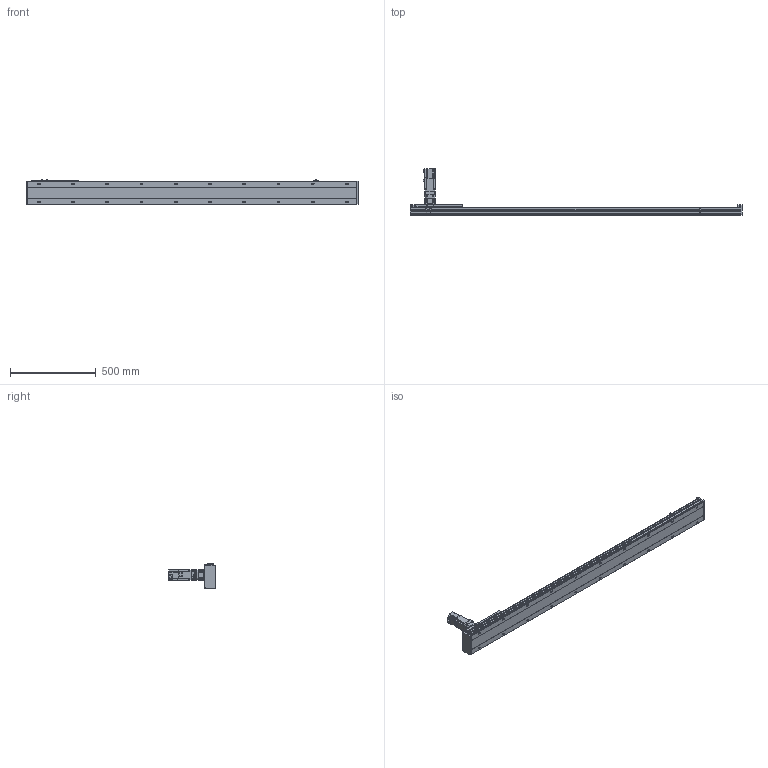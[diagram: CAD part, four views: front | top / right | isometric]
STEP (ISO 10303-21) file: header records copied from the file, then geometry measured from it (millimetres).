
FILE_DESCRIPTION(/* description */ ('STEP AP203'),/* implementation_level */ '2;1');
FILE_NAME(/* name */ 'SHS14A-L10-S1600-BC-T40-C1-N(0)',/* time_stamp */ '2023-03-27T08:49:12+02:00',/* author */ ('License CC BY-ND 4.0'),/* organization */ ('CADENAS'),/* preprocessor_version */ 'ST-DEVELOPER v19.3',/* originating_system */ 'PARTsolutions',/* authorisation */ ' ');
FILE_SCHEMA (('CONFIG_CONTROL_DESIGN'));
Length unit declared in the file: millimetre
Products named in the file (7): SHS14A-L10-S1600-BC-T40-C1-N(0); PSC140-sensor; T40-p1; SHS14AT_body3; SHS14A-1600_slider; SHS14A_body2; SHS14A-S1600-BC-T40-C1(0)_body
Assembly tree (13 placements, depth 2):
  SHS14A-L10-S1600-BC-T40-C1-N(0)
    PSC140-sensor  x3
    T40-p1
    SHS14AT_body3
    SHS14A-1600_slider
    SHS14A_body2  x6
    SHS14A-S1600-BC-T40-C1(0)_body
Bounding box: 1940 x 272.7 x 150.9 mm (x, y, z)
Volume: 8514651.1 mm3; surface area: 1342403.3 mm2
Topology: 13 solids, 13 shells, 2060 faces, 5263 edges, 3442 vertices
Faces by surface type: plane 1455, cylinder 523, cone 72, torus 10
Full cylindrical faces by diameter (mm): 2.8 x3, 4.134 x24, 4.2 x7, 4.4 x24, 4.5 x24, 4.6 x3, 4.8 x24, 4.917 x28, 5 x8, 5.5 x11, 5.94 x6, 6 x2, 6.6 x20, 8 x24, 8.49 x4, 8.5 x4, 9 x4, 10.5 x20, 13.964 x1, 14 x1, 14.182 x1, 16 x1, 18.974 x1, 19.274 x1, 19.774 x1, 19.8 x1, 34.442 x1, 42 x1, 50 x5
Entity records: 32470 total; most frequent: CARTESIAN_POINT 5742, DIRECTION 5491, ORIENTED_EDGE 5082, EDGE_CURVE 2541, AXIS2_PLACEMENT_3D 1889, VERTEX_POINT 1804, LINE 1713, VECTOR 1713
